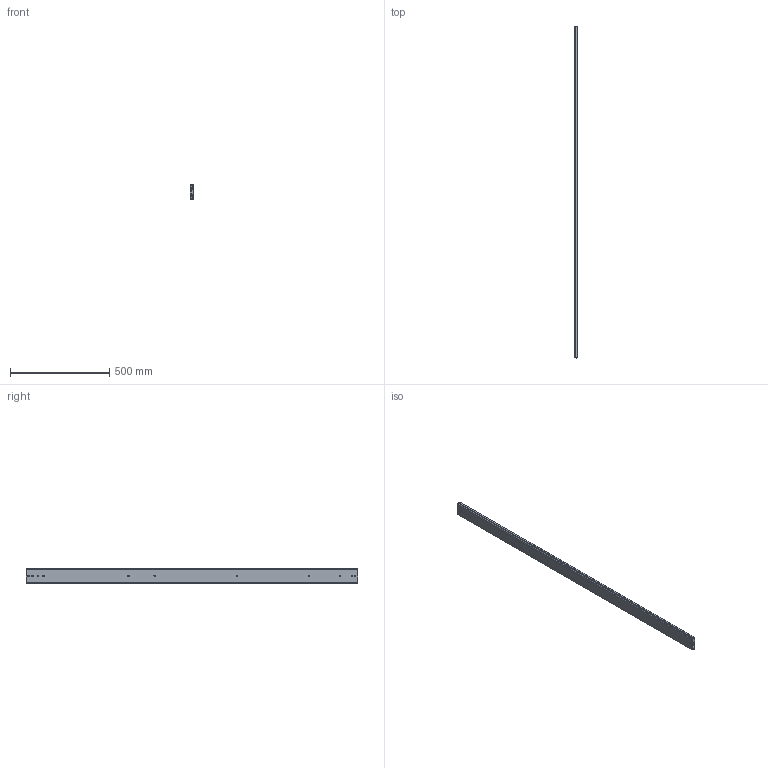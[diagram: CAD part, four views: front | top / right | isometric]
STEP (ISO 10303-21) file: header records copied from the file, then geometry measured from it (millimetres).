
FILE_DESCRIPTION(/* description */ ('Unknown'),/* implementation_level */ '2;1');
FILE_NAME(/* name */ '76J01-66 close',/* time_stamp */ '2024-07-30T14:42:59+08:00',/* author */ ('Unknown'),/* organization */ ('Unknown'),/* preprocessor_version */ 'ST-DEVELOPER v18.104',/* originating_system */ 'Solid Edge',/* authorisation */ 'Unknown');
FILE_SCHEMA (('AUTOMOTIVE_DESIGN {1 0 10303 214 3 1 1}'));
Length unit declared in the file: millimetre
Products named in the file (4): 76J01-66 close; 76J01 66 inch 內; 76J01 66 ｦT倶ｸｭ.par:1; 76J01 66 吋
Assembly tree (3 placements, depth 2):
  76J01-66 close
    76J01 66 inch 內
    76J01 66 ｦT倶ｸｭ.par:1
    76J01 66 吋
Bounding box: 19.3 x 1676.4 x 76.76 mm (x, y, z)
Volume: 1327103.6 mm3; surface area: 824601.1 mm2
Topology: 3 solids, 3 shells, 196 faces, 606 edges, 410 vertices
Faces by surface type: plane 104, cylinder 92
Full cylindrical faces by diameter (mm): 5.2 x16, 7.1 x2
Entity records: 7179 total; most frequent: CARTESIAN_POINT 1168, DIRECTION 1152, ORIENTED_EDGE 1140, EDGE_CURVE 570, VERTEX_POINT 392, LINE 384, VECTOR 384, AXIS2_PLACEMENT_3D 384
